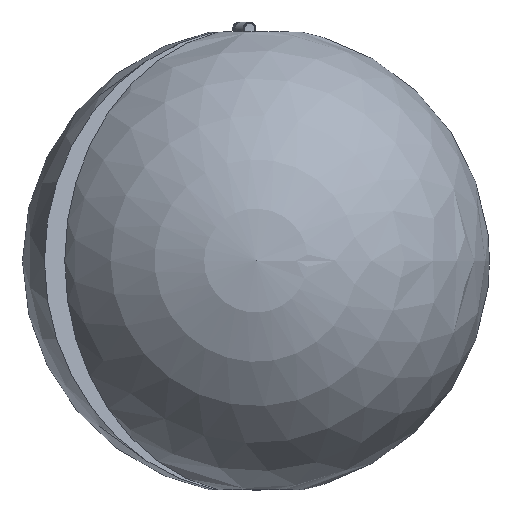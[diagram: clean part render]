
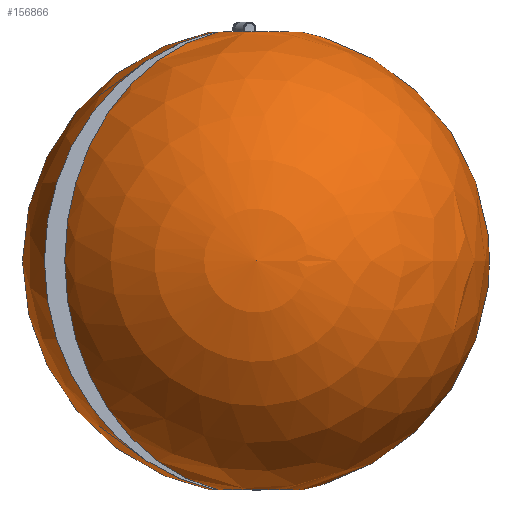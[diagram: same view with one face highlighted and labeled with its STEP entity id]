
A CAD part, top view. The second image highlights one B-rep face of the part: STEP entity #156866.
In plain terms, the highlighted spherical face has radius 1868 mm.
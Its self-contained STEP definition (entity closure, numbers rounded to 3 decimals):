
#14278 = ORIENTED_EDGE ( 'NONE', *, *, #30095, .T. ) ;
#17757 = DIRECTION ( 'NONE',  ( 0., 0., -1. ) ) ;
#23270 = AXIS2_PLACEMENT_3D ( 'NONE', #101074, #45391, #172730 ) ;
#30095 = EDGE_CURVE ( 'NONE', #160751, #117790, #225085, .T. ) ;
#34902 = CIRCLE ( 'NONE', #45574, 1868. ) ;
#39060 = DIRECTION ( 'NONE',  ( 0.574, 0., 0.819 ) ) ;
#45391 = DIRECTION ( 'NONE',  ( 0., -1., 0. ) ) ;
#45574 = AXIS2_PLACEMENT_3D ( 'NONE', #148159, #39060, #202244 ) ;
#53583 = DIRECTION ( 'NONE',  ( 0., -1., 0. ) ) ;
#54886 = DIRECTION ( 'NONE',  ( -1., 0., 0. ) ) ;
#58895 = DIRECTION ( 'NONE',  ( -0.423, 0., -0.906 ) ) ;
#64844 = FACE_OUTER_BOUND ( 'NONE', #151616, .T. ) ;
#69795 = VERTEX_POINT ( 'NONE', #167498 ) ;
#73308 = SPHERICAL_SURFACE ( 'NONE', #109589, 1868. ) ;
#74026 = DIRECTION ( 'NONE',  ( -0.906, 0., 0.423 ) ) ;
#101074 = CARTESIAN_POINT ( 'NONE',  ( 0., 2046.393, 0. ) ) ;
#109589 = AXIS2_PLACEMENT_3D ( 'NONE', #163955, #165493, #54886 ) ;
#117790 = VERTEX_POINT ( 'NONE', #174958 ) ;
#123382 = EDGE_CURVE ( 'NONE', #117790, #189558, #140801, .T. ) ;
#140801 = CIRCLE ( 'NONE', #23270, 368. ) ;
#148159 = CARTESIAN_POINT ( 'NONE',  ( 0., 215., 0. ) ) ;
#151616 = EDGE_LOOP ( 'NONE', ( #192819, #14278, #153348, #158426 ) ) ;
#153292 = CARTESIAN_POINT ( 'NONE',  ( -333.521, -1616.393, 155.524 ) ) ;
#153348 = ORIENTED_EDGE ( 'NONE', *, *, #123382, .T. ) ;
#154312 = AXIS2_PLACEMENT_3D ( 'NONE', #218370, #53583, #17757 ) ;
#156866 = ADVANCED_FACE ( 'NONE', ( #64844 ), #73308, .T. ) ;
#158426 = ORIENTED_EDGE ( 'NONE', *, *, #214730, .T. ) ;
#160751 = VERTEX_POINT ( 'NONE', #153292 ) ;
#161532 = EDGE_CURVE ( 'NONE', #160751, #69795, #166577, .T. ) ;
#163955 = CARTESIAN_POINT ( 'NONE',  ( 0., 215., 0. ) ) ;
#164995 = CARTESIAN_POINT ( 'NONE',  ( -301.448, 2046.393, 211.076 ) ) ;
#165493 = DIRECTION ( 'NONE',  ( 0., 0., -1. ) ) ;
#166577 = CIRCLE ( 'NONE', #154312, 368. ) ;
#167172 = CARTESIAN_POINT ( 'NONE',  ( 0., 215., 0. ) ) ;
#167498 = CARTESIAN_POINT ( 'NONE',  ( -301.448, -1616.393, 211.076 ) ) ;
#172730 = DIRECTION ( 'NONE',  ( 0., 0., -1. ) ) ;
#174958 = CARTESIAN_POINT ( 'NONE',  ( -333.521, 2046.393, 155.524 ) ) ;
#189558 = VERTEX_POINT ( 'NONE', #164995 ) ;
#192819 = ORIENTED_EDGE ( 'NONE', *, *, #161532, .F. ) ;
#202244 = DIRECTION ( 'NONE',  ( 0.819, 0., -0.574 ) ) ;
#214730 = EDGE_CURVE ( 'NONE', #189558, #69795, #34902, .T. ) ;
#218370 = CARTESIAN_POINT ( 'NONE',  ( 0., -1616.393, 0. ) ) ;
#221930 = AXIS2_PLACEMENT_3D ( 'NONE', #167172, #58895, #74026 ) ;
#225085 = CIRCLE ( 'NONE', #221930, 1868. ) ;
